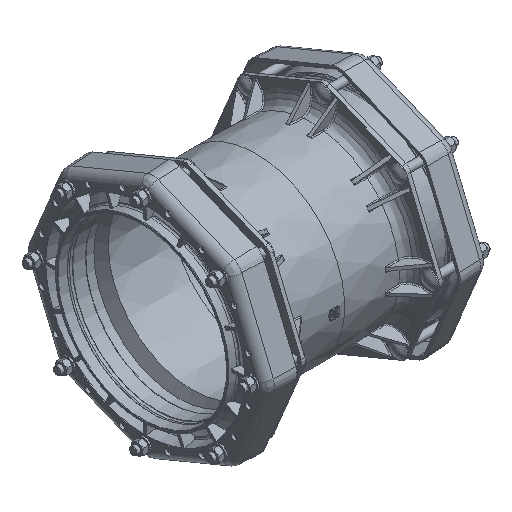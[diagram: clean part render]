
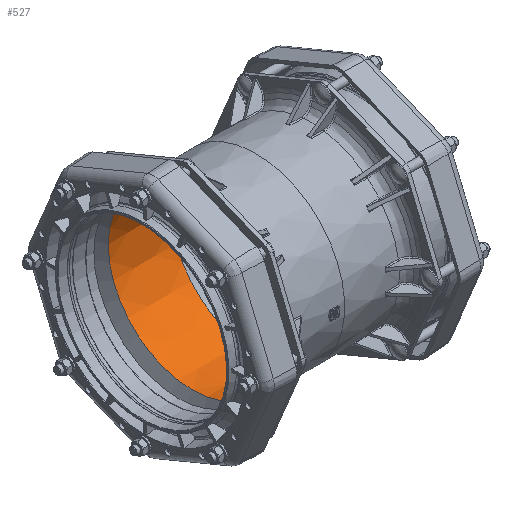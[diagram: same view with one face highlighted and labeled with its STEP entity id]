
A CAD part, isometric view. The second image highlights one B-rep face of the part: STEP entity #527.
In plain terms, the highlighted conical face has half-angle 0.844 degrees and reference radius 18.979 mm.
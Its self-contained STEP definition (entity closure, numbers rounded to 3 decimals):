
#496=CARTESIAN_POINT('',(-150.0,180.75,0.));
#497=VERTEX_POINT('',#496);
#498=CARTESIAN_POINT('',(-150.0,0.0,0.0));
#499=DIRECTION('',(-1.0,0.0,0.0));
#500=DIRECTION('',(0.0,-1.0,0.0));
#501=AXIS2_PLACEMENT_3D('',#498,#499,#500);
#502=CIRCLE('',#501,180.75);
#503=EDGE_CURVE('',#497,#497,#502,.T.);
#508=CARTESIAN_POINT('',(-11132.457,0.,0.));
#509=DIRECTION('',(1.0,0.,0.));
#510=DIRECTION('',(0.0,0.0,-1.0));
#511=AXIS2_PLACEMENT_3D('',#508,#509,#510);
#512=CONICAL_SURFACE('',#511,18.979,0.844);
#513=ORIENTED_EDGE('',*,*,#503,.F.);
#514=EDGE_LOOP('',(#513));
#515=FACE_OUTER_BOUND('',#514,.T.);
#516=CARTESIAN_POINT('',(-285.778,178.75,0.));
#517=VERTEX_POINT('',#516);
#518=CARTESIAN_POINT('',(-285.778,0.0,0.0));
#519=DIRECTION('',(-1.0,0.0,0.0));
#520=DIRECTION('',(0.0,-1.0,0.0));
#521=AXIS2_PLACEMENT_3D('',#518,#519,#520);
#522=CIRCLE('',#521,178.75);
#523=EDGE_CURVE('',#517,#517,#522,.T.);
#524=ORIENTED_EDGE('',*,*,#523,.T.);
#525=EDGE_LOOP('',(#524));
#526=FACE_BOUND('',#525,.T.);
#527=ADVANCED_FACE('',(#515,#526),#512,.F.);
